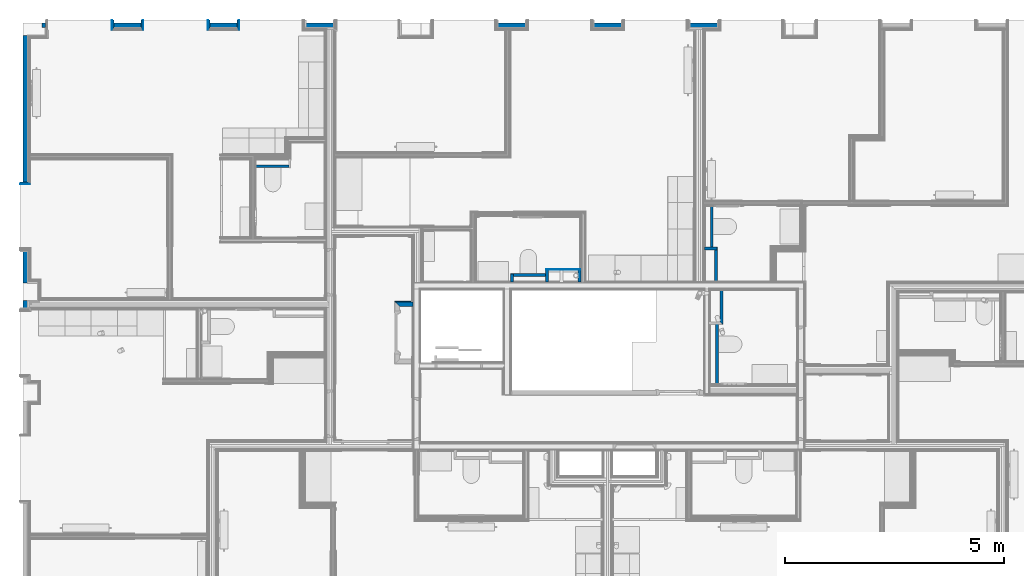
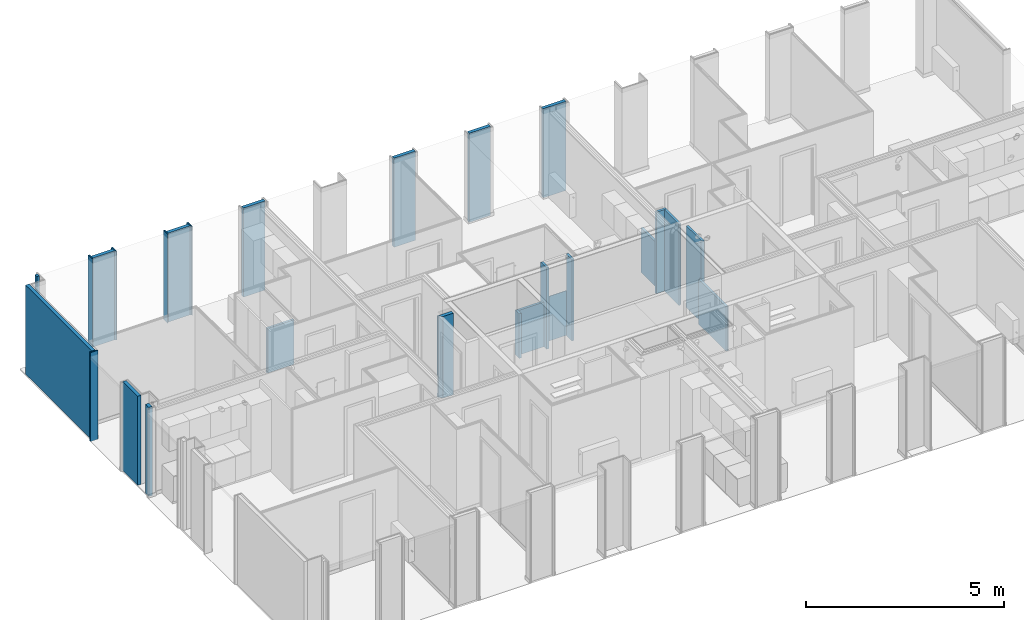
# One storey, part 3 of 85: 32 walls.
"""IFC2X3 building model written with IfcOpenShell, lengths in metres."""

from ifc_helpers import new_model, entity, si_unit, converted_unit, derived_unit, money_unit, direction, frame, frame_2d, origin_with_axes, place, context, subcontext, project, spatial, polyline, rectangle, outline, extrude, clip, bounded_halfspace, material, layer, layer_set, layer_usage, type_object, element, save


model = new_model("IFC2X3")

# Units and contexts
model_context = context("Model", 3, precision=1e-05, world=origin_with_axes(), true_north=direction((0.0, 1.0)))
body_context = subcontext(model_context, "Body", "Model", "MODEL_VIEW", scale=1.0)
ifc_project = project(units=[si_unit("LENGTHUNIT", "METRE"), si_unit("AREAUNIT", "SQUARE_METRE"), si_unit("VOLUMEUNIT", "CUBIC_METRE"), si_unit("ABSORBEDDOSEUNIT", "GRAY"), si_unit("AMOUNTOFSUBSTANCEUNIT", "MOLE"), si_unit("DOSEEQUIVALENTUNIT", "SIEVERT"), si_unit("ELECTRICCAPACITANCEUNIT", "FARAD"), si_unit("ELECTRICCHARGEUNIT", "COULOMB"), si_unit("ELECTRICCONDUCTANCEUNIT", "SIEMENS"), si_unit("ELECTRICCURRENTUNIT", "AMPERE"), si_unit("ELECTRICRESISTANCEUNIT", "OHM"), si_unit("ELECTRICVOLTAGEUNIT", "VOLT"), si_unit("ENERGYUNIT", "JOULE"), si_unit("FORCEUNIT", "NEWTON"), si_unit("FREQUENCYUNIT", "HERTZ"), si_unit("ILLUMINANCEUNIT", "LUX"), si_unit("INDUCTANCEUNIT", "HENRY"), si_unit("LUMINOUSFLUXUNIT", "LUMEN"), si_unit("LUMINOUSINTENSITYUNIT", "CANDELA"), si_unit("MAGNETICFLUXDENSITYUNIT", "TESLA"), si_unit("MAGNETICFLUXUNIT", "WEBER"), si_unit("MASSUNIT", "GRAM"), converted_unit("PLANEANGLEUNIT", "degree", entity("IfcReal", 0.0174532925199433), si_unit("PLANEANGLEUNIT", "RADIAN"), dimensions=[0, 0, 0, 0, 0, 0, 0]), si_unit("POWERUNIT", "WATT"), si_unit("PRESSUREUNIT", "PASCAL"), si_unit("RADIOACTIVITYUNIT", "BECQUEREL"), si_unit("SOLIDANGLEUNIT", "STERADIAN"), si_unit("THERMODYNAMICTEMPERATUREUNIT", "KELVIN"), si_unit("TIMEUNIT", "SECOND"), derived_unit("ACCELERATIONUNIT", [(si_unit("LENGTHUNIT", "METRE"), 1), (si_unit("TIMEUNIT", "SECOND"), -2)]), derived_unit("ANGULARVELOCITYUNIT", [(converted_unit("PLANEANGLEUNIT", "degree", entity("IfcReal", 0.0174532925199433), si_unit("PLANEANGLEUNIT", "RADIAN"), dimensions=[0, 0, 0, 0, 0, 0, 0]), 1), (si_unit("TIMEUNIT", "SECOND"), -1)]), derived_unit("CURVATUREUNIT", [(converted_unit("PLANEANGLEUNIT", "degree", entity("IfcReal", 0.0174532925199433), si_unit("PLANEANGLEUNIT", "RADIAN"), dimensions=[0, 0, 0, 0, 0, 0, 0]), 1), (si_unit("LENGTHUNIT", "METRE"), -1)]), derived_unit("DYNAMICVISCOSITYUNIT", [(si_unit("PRESSUREUNIT", "PASCAL"), 1), (si_unit("TIMEUNIT", "SECOND"), 1)]), derived_unit("HEATFLUXDENSITYUNIT", [(si_unit("POWERUNIT", "WATT"), 1), (si_unit("LENGTHUNIT", "METRE"), -2)]), derived_unit("HEATINGVALUEUNIT", [(si_unit("ENERGYUNIT", "JOULE"), 1), (si_unit("MASSUNIT", "GRAM"), -1)]), derived_unit("INTEGERCOUNTRATEUNIT", [(si_unit("TIMEUNIT", "SECOND"), -1)]), derived_unit("IONCONCENTRATIONUNIT", [(si_unit("MASSUNIT", "GRAM"), 1), (si_unit("VOLUMEUNIT", "CUBIC_METRE"), -1)]), derived_unit("ISOTHERMALMOISTURECAPACITYUNIT", [(si_unit("VOLUMEUNIT", "CUBIC_METRE"), 1), (si_unit("MASSUNIT", "GRAM"), -1)]), derived_unit("KINEMATICVISCOSITYUNIT", [(si_unit("AREAUNIT", "SQUARE_METRE"), 1), (si_unit("TIMEUNIT", "SECOND"), -1)]), derived_unit("LINEARFORCEUNIT", [(si_unit("FORCEUNIT", "NEWTON"), 1), (si_unit("LENGTHUNIT", "METRE"), -1)]), derived_unit("LINEARMOMENTUNIT", [(si_unit("FORCEUNIT", "NEWTON"), 1), (si_unit("LENGTHUNIT", "METRE"), -1)]), derived_unit("LINEARSTIFFNESSUNIT", [(si_unit("FORCEUNIT", "NEWTON"), 1), (si_unit("LENGTHUNIT", "METRE"), -1)]), derived_unit("LINEARVELOCITYUNIT", [(si_unit("LENGTHUNIT", "METRE"), 1), (si_unit("TIMEUNIT", "SECOND"), -1)]), derived_unit("LUMINOUSINTENSITYDISTRIBUTIONUNIT", [(si_unit("LUMINOUSINTENSITYUNIT", "CANDELA"), 1), (si_unit("LUMINOUSFLUXUNIT", "LUMEN"), -1)]), derived_unit("MASSDENSITYUNIT", [(si_unit("MASSUNIT", "GRAM"), 1), (si_unit("VOLUMEUNIT", "CUBIC_METRE"), -1)]), derived_unit("MASSFLOWRATEUNIT", [(si_unit("MASSUNIT", "GRAM"), 1), (si_unit("TIMEUNIT", "SECOND"), -1)]), derived_unit("MASSPERLENGTHUNIT", [(si_unit("MASSUNIT", "GRAM"), 1), (si_unit("LENGTHUNIT", "METRE"), -1)]), derived_unit("MODULUSOFELASTICITYUNIT", [(si_unit("FORCEUNIT", "NEWTON"), 1), (si_unit("AREAUNIT", "SQUARE_METRE"), -1)]), derived_unit("MODULUSOFLINEARSUBGRADEREACTIONUNIT", [(si_unit("FORCEUNIT", "NEWTON"), 1), (si_unit("LENGTHUNIT", "METRE"), -2)]), derived_unit("MODULUSOFROTATIONALSUBGRADEREACTIONUNIT", [(si_unit("FORCEUNIT", "NEWTON"), 1), (si_unit("LENGTHUNIT", "METRE"), 1)]), derived_unit("MODULUSOFSUBGRADEREACTIONUNIT", [(si_unit("FORCEUNIT", "NEWTON"), 1), (si_unit("VOLUMEUNIT", "CUBIC_METRE"), -1)]), derived_unit("MOISTUREDIFFUSIVITYUNIT", [(si_unit("VOLUMEUNIT", "CUBIC_METRE"), 1), (si_unit("TIMEUNIT", "SECOND"), -1)]), derived_unit("MOLECULARWEIGHTUNIT", [(si_unit("MASSUNIT", "GRAM"), 1), (si_unit("AMOUNTOFSUBSTANCEUNIT", "MOLE"), -1)]), derived_unit("PLANARFORCEUNIT", [(si_unit("FORCEUNIT", "NEWTON"), 1), (si_unit("LENGTHUNIT", "METRE"), -2)]), derived_unit("ROTATIONALFREQUENCYUNIT", [(si_unit("TIMEUNIT", "SECOND"), -1)]), derived_unit("ROTATIONALMASSUNIT", [(si_unit("MASSUNIT", "GRAM"), 1), (si_unit("LENGTHUNIT", "METRE"), 2)]), derived_unit("ROTATIONALSTIFFNESSUNIT", [(si_unit("FORCEUNIT", "NEWTON"), 1), (si_unit("LENGTHUNIT", "METRE"), 1), (converted_unit("PLANEANGLEUNIT", "degree", entity("IfcReal", 0.0174532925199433), si_unit("PLANEANGLEUNIT", "RADIAN"), dimensions=[0, 0, 0, 0, 0, 0, 0]), -1)]), derived_unit("SECTIONAREAINTEGRALUNIT", [(si_unit("LENGTHUNIT", "METRE"), 5)]), derived_unit("SECTIONMODULUSUNIT", [(si_unit("LENGTHUNIT", "METRE"), 3)]), derived_unit("SHEARMODULUSUNIT", [(si_unit("FORCEUNIT", "NEWTON"), 1), (si_unit("AREAUNIT", "SQUARE_METRE"), -1)]), derived_unit("SOUNDPOWERUNIT", [(si_unit("ENERGYUNIT", "JOULE"), 1), (si_unit("TIMEUNIT", "SECOND"), -1)]), derived_unit("SPECIFICHEATCAPACITYUNIT", [(si_unit("FORCEUNIT", "NEWTON"), 1), (si_unit("MASSUNIT", "GRAM"), -1), (si_unit("THERMODYNAMICTEMPERATUREUNIT", "KELVIN"), -1)]), derived_unit("TEMPERATUREGRADIENTUNIT", [(si_unit("THERMODYNAMICTEMPERATUREUNIT", "KELVIN"), 1), (si_unit("LENGTHUNIT", "METRE"), -1)]), derived_unit("THERMALADMITTANCEUNIT", [(si_unit("POWERUNIT", "WATT"), 1), (si_unit("AREAUNIT", "SQUARE_METRE"), -1), (si_unit("THERMODYNAMICTEMPERATUREUNIT", "KELVIN"), -1)]), derived_unit("THERMALCONDUCTANCEUNIT", [(si_unit("POWERUNIT", "WATT"), 1), (si_unit("LENGTHUNIT", "METRE"), -1), (si_unit("THERMODYNAMICTEMPERATUREUNIT", "KELVIN"), -1)]), derived_unit("THERMALEXPANSIONCOEFFICIENTUNIT", [(si_unit("THERMODYNAMICTEMPERATUREUNIT", "KELVIN"), -1)]), derived_unit("THERMALRESISTANCEUNIT", [(si_unit("AREAUNIT", "SQUARE_METRE"), 1), (si_unit("POWERUNIT", "WATT"), -1)]), derived_unit("THERMALTRANSMITTANCEUNIT", [(si_unit("POWERUNIT", "WATT"), 1), (si_unit("AREAUNIT", "SQUARE_METRE"), -1), (si_unit("THERMODYNAMICTEMPERATUREUNIT", "KELVIN"), -1)]), derived_unit("TORQUEUNIT", [(si_unit("FORCEUNIT", "NEWTON"), 1), (si_unit("LENGTHUNIT", "METRE"), 1)]), derived_unit("VAPORPERMEABILITYUNIT", [(si_unit("MASSUNIT", "GRAM"), 1), (si_unit("TIMEUNIT", "SECOND"), -1)]), derived_unit("VOLUMETRICFLOWRATEUNIT", [(si_unit("VOLUMEUNIT", "CUBIC_METRE"), 1), (si_unit("TIMEUNIT", "SECOND"), -1)]), derived_unit("WARPINGCONSTANTUNIT", [(si_unit("LENGTHUNIT", "METRE"), 6)]), derived_unit("WARPINGMOMENTUNIT", [(si_unit("FORCEUNIT", "NEWTON"), 1), (si_unit("LENGTHUNIT", "METRE"), 2)]), money_unit("GBP")], contexts=[model_context])

# Site, building, storey
site_placement = place(None, origin_with_axes())
site = spatial("IfcSite", under=ifc_project, at=site_placement, Name="Site", CompositionType="ELEMENT")
building_placement = place(site_placement, origin_with_axes())
building = spatial("IfcBuilding", under=site, at=building_placement, Name="Building01", CompositionType="ELEMENT")
storey_placement = place(building_placement, frame((0.0, 0.0, 12.13), z_axis=(0.0, 0.0, 1.0), x_axis=(1.0, 0.0, 0.0)))
storey = spatial("IfcBuildingStorey", under=building, at=storey_placement, Name="3F", CompositionType="ELEMENT", Elevation=12.13)

# Walls
ifc_material_1 = material(Name="A_BSUK_WallsExternal_Block")
ifc_layer_1 = layer(ifc_material_1, 0.1, ventilated=False)
ifc_layer_set_1 = layer_set([ifc_layer_1])
ifc_layer_usage_1 = layer_usage(ifc_layer_set_1, "AXIS2", "POSITIVE", 0.0)
wall_type_1 = type_object("IfcWallType", Name="A-Walls-ExternalBlock", PredefinedType="NOTDEFINED")
wall_1_placement = place(storey_placement, frame((0.6, 14.63, 0.0), z_axis=(0.0, 0.0, 1.0), x_axis=(1.0, 0.0, 0.0)))
element("IfcWallStandardCase", 1, at=wall_1_placement, inside=storey, type_object=wall_type_1, material=ifc_layer_usage_1, Name="A-Walls-ExternalBlock", ObjectType="A-Walls-ExternalBlock", context=body_context, shape_type="SweptSolid", body=[
    extrude(rectangle(XDim=0.077, YDim=0.1, at=frame_2d((0.0385, 0.05), x_axis=(1.0, 0.0))), origin_with_axes(), (0.0, 0.0, 1.0), 2.74),
])
wall_2_placement = place(storey_placement, frame((0.17, 14.45, 0.0), z_axis=(0.0, 0.0, 1.0), x_axis=(0.0, -1.0, 0.0)))
element("IfcWallStandardCase", 2, at=wall_2_placement, inside=storey, type_object=wall_type_1, material=ifc_layer_usage_1, Name="A-Walls-ExternalBlock", ObjectType="A-Walls-ExternalBlock", context=body_context, shape_type="SweptSolid", body=[
    extrude(rectangle(XDim=3.347, YDim=0.1, at=frame_2d((1.6735, 0.05), x_axis=(1.0, 0.0))), origin_with_axes(), (0.0, 0.0, 1.0), 2.74),
])
wall_3_placement = place(storey_placement, frame((0.17, 9.55018, 0.0), z_axis=(0.0, 0.0, 1.0), x_axis=(0.0, -1.0, 0.0)))
element("IfcWallStandardCase", 3, at=wall_3_placement, inside=storey, type_object=wall_type_1, material=ifc_layer_usage_1, Name="A-Walls-ExternalBlock", ObjectType="A-Walls-ExternalBlock", context=body_context, shape_type="SweptSolid", body=[
    extrude(rectangle(XDim=0.1, YDim=0.75018, at=frame_2d((0.37509, 0.05), x_axis=(0.0, -1.0))), origin_with_axes(), (0.0, 0.0, 1.0), 2.74),
])
wall_4_placement = place(storey_placement, frame((0.17, 8.4, 0.0), z_axis=(0.0, 0.0, 1.0), x_axis=(0.0, -1.0, 0.0)))
element("IfcWallStandardCase", 4, at=wall_4_placement, inside=storey, type_object=wall_type_1, material=ifc_layer_usage_1, Name="A-Walls-ExternalBlock", ObjectType="A-Walls-ExternalBlock", context=body_context, shape_type="SweptSolid", body=[
    extrude(rectangle(XDim=0.167, YDim=0.1, at=frame_2d((0.0835, 0.05), x_axis=(-1.0, 0.0))), origin_with_axes(), (0.0, 0.0, 1.0), 2.74),
])
for number, where, z_axis, x_axis, name in (
    (5, (2.243, 14.63, 0.0), (0.0, 0.0, 1.0), (1.0, 0.0, 0.0), "A-Walls-ExternalBlock"),
    (6, (4.433, 14.63, 0.0), (0.0, 0.0, 1.0), (1.0, 0.0, 0.0), "A-Walls-ExternalBlock"),
):
    element("IfcWallStandardCase", number, at=place(storey_placement, frame(where, z_axis=z_axis, x_axis=x_axis)), inside=storey, type_object=wall_type_1, material=ifc_layer_usage_1, Name=name, ObjectType="A-Walls-ExternalBlock", context=body_context, shape_type="SweptSolid", body=[
        extrude(rectangle(XDim=0.624, YDim=0.1, at=frame_2d((0.312, 0.05), x_axis=(1.0, 0.0))), origin_with_axes(), (0.0, 0.0, 1.0), 2.74),
    ])
wall_5_placement = place(storey_placement, frame((6.622876, 14.63, 0.0), z_axis=(0.0, 0.0, 1.0), x_axis=(1.0, 0.0, 0.0)))
element("IfcWallStandardCase", 7, at=wall_5_placement, inside=storey, type_object=wall_type_1, material=ifc_layer_usage_1, Name="A-Walls-ExternalBlock", ObjectType="A-Walls-ExternalBlock", context=body_context, shape_type="SweptSolid", body=[
    extrude(rectangle(XDim=0.624124, YDim=0.1, at=frame_2d((0.312062, 0.05), x_axis=(-1.0, 0.0))), origin_with_axes(), (0.0, 0.0, 1.0), 2.74),
])
for number, where, z_axis, x_axis, name in (
    (8, (11.003, 14.63, 0.0), (0.0, 0.0, 1.0), (1.0, 0.0, 0.0), "A-Walls-ExternalBlock"),
    (9, (13.193, 14.63, 0.0), (0.0, 0.0, 1.0), (1.0, 0.0, 0.0), "A-Walls-ExternalBlock"),
):
    element("IfcWallStandardCase", number, at=place(storey_placement, frame(where, z_axis=z_axis, x_axis=x_axis)), inside=storey, type_object=wall_type_1, material=ifc_layer_usage_1, Name=name, ObjectType="A-Walls-ExternalBlock", context=body_context, shape_type="SweptSolid", body=[
        extrude(rectangle(XDim=0.624, YDim=0.1, at=frame_2d((0.312, 0.05), x_axis=(1.0, 0.0))), origin_with_axes(), (0.0, 0.0, 1.0), 2.74),
    ])
wall_6_placement = place(storey_placement, frame((15.347, 14.63, 0.0), z_axis=(0.0, 0.0, 1.0), x_axis=(1.0, 0.0, 0.0)))
element("IfcWallStandardCase", 10, at=wall_6_placement, inside=storey, type_object=wall_type_1, material=ifc_layer_usage_1, Name="A-Walls-ExternalBlock", ObjectType="A-Walls-ExternalBlock", context=body_context, shape_type="SweptSolid", body=[
    extrude(rectangle(XDim=0.1, YDim=0.66, at=frame_2d((0.33, 0.05), x_axis=(0.0, -1.0))), origin_with_axes(), (0.0, 0.0, 1.0), 2.74),
])
ifc_material_2 = material(Name="A_BSUK_OpeningsClearance")
ifc_layer_2 = layer(ifc_material_2, 0.05, ventilated=False)
ifc_material_3 = material(Name="A_BSUK_Walls_Timber")
ifc_layer_3 = layer(ifc_material_3, 0.015, ventilated=False)
ifc_layer_set_2 = layer_set([ifc_layer_2, ifc_layer_3])
ifc_layer_usage_2 = layer_usage(ifc_layer_set_2, "AXIS2", "POSITIVE", 0.0)
wall_type_2 = type_object("IfcWallType", Name="SHE_A-Walls_Type05c_PreWallShell_65mm", PredefinedType="NOTDEFINED")
wall_7_placement = place(storey_placement, frame((12.153871, 8.82, 0.0), z_axis=(0.0, 0.0, 1.0), x_axis=(0.0, 1.0, 0.0)))
element("IfcWallStandardCase", 11, at=wall_7_placement, inside=storey, type_object=wall_type_2, material=ifc_layer_usage_2, Name="5C", ObjectType="SHE_A-Walls_Type05c_PreWallShell_65mm", context=body_context, shape_type="SweptSolid", body=[
    extrude(outline(polyline([(0.285, 0.05), (0.3, 0.05), (0.3, 0.065), (0.0, 0.065), (0.0, 0.0), (0.285, 0.0), (0.285, 0.05)])), origin_with_axes(), (0.0, 0.0, 1.0), 2.51),
])
ifc_layer_set_3 = layer_set([ifc_layer_3, ifc_layer_2])
ifc_layer_usage_3 = layer_usage(ifc_layer_set_3, "AXIS2", "POSITIVE", 0.0)
wall_8_placement = place(storey_placement, frame((16.065, 7.915, 0.0), z_axis=(0.0, 0.0, 1.0), x_axis=(0.0, 1.0, 0.0)))
element("IfcWallStandardCase", 12, at=wall_8_placement, inside=storey, type_object=wall_type_2, material=ifc_layer_usage_3, Name="5C", ObjectType="SHE_A-Walls_Type05c_PreWallShell_65mm", context=body_context, shape_type="SweptSolid", body=[
    extrude(outline(polyline([(0.72, -0.05), (0.75, -0.05), (0.75, 0.0), (0.0, 0.0), (-0.065, -0.065), (0.72, -0.065), (0.72, -0.05)])), origin_with_axes(), (0.0, 0.0, 1.0), 2.51),
])
wall_9_placement = place(storey_placement, frame((15.965, 6.59, 0.0), z_axis=(0.0, 0.0, 1.0), x_axis=(0.0, 1.0, 0.0)))
element("IfcWallStandardCase", 13, at=wall_9_placement, inside=storey, type_object=wall_type_2, material=ifc_layer_usage_3, Name="5C", ObjectType="SHE_A-Walls_Type05c_PreWallShell_65mm", context=body_context, shape_type="SweptSolid", body=[
    extrude(outline(polyline([(1.275, -0.05), (1.275, 0.0), (-0.103, 0.0), (-0.103, -0.05), (-0.115, -0.05), (-0.115, -0.065), (1.325, -0.065), (1.325, -0.05), (1.275, -0.05)])), origin_with_axes(), (0.0, 0.0, 1.0), 1.375),
])
wall_10_placement = place(storey_placement, frame((12.828585, 8.82, 0.0), z_axis=(0.0, 0.0, 1.0), x_axis=(0.0, 1.0, 0.0)))
element("IfcWallStandardCase", 14, at=wall_10_placement, inside=storey, type_object=wall_type_2, material=ifc_layer_usage_3, Name="5C", ObjectType="SHE_A-Walls_Type05c_PreWallShell_65mm", context=body_context, shape_type="SweptSolid", body=[
    extrude(outline(polyline([(0.285, -0.05), (0.285, 0.0), (0.0, 0.0), (0.0, -0.065), (0.3, -0.065), (0.3, -0.05), (0.285, -0.05)])), origin_with_axes(), (0.0, 0.0, 1.0), 2.51),
])
wall_11_placement = place(storey_placement, frame((15.943132, 9.555, 0.0), z_axis=(0.0, 0.0, 1.0), x_axis=(0.0, -1.0, 0.0)))
element("IfcWallStandardCase", 15, at=wall_11_placement, inside=storey, type_object=wall_type_2, material=ifc_layer_usage_2, Name="5C", ObjectType="SHE_A-Walls_Type05c_PreWallShell_65mm", context=body_context, shape_type="SweptSolid", body=[
    extrude(outline(polyline([(0.72, 0.05), (0.72, 0.065), (-0.065, 0.065), (-0.065, 0.05), (0.0, 0.05), (0.0, 0.0), (0.735, 0.0), (0.735, 0.05), (0.72, 0.05)])), origin_with_axes(), (0.0, 0.0, 1.0), 2.51),
])
wall_12_placement = place(storey_placement, frame((15.708132, 9.555, 0.0), z_axis=(0.0, 0.0, 1.0), x_axis=(1.0, 0.0, 0.0)))
element("IfcWallStandardCase", 16, at=wall_12_placement, inside=storey, type_object=wall_type_2, material=ifc_layer_usage_2, Name="5C", ObjectType="SHE_A-Walls_Type05c_PreWallShell_65mm", context=body_context, shape_type="SweptSolid", body=[
    extrude(rectangle(XDim=0.285, YDim=0.065, at=frame_2d((0.1425, 0.0325), x_axis=(-1.0, 0.0))), origin_with_axes(), (0.0, 0.0, 1.0), 2.51),
])
wall_13_placement = place(storey_placement, frame((15.843132, 9.605, 0.0), z_axis=(0.0, 0.0, 1.0), x_axis=(0.0, 1.0, 0.0)))
element("IfcWallStandardCase", 17, at=wall_13_placement, inside=storey, type_object=wall_type_2, material=ifc_layer_usage_3, Name="5C", ObjectType="SHE_A-Walls_Type05c_PreWallShell_65mm", context=body_context, shape_type="SweptSolid", body=[
    extrude(outline(polyline([(0.95, -0.05), (0.965, -0.05), (0.965, 0.0), (0.0, 0.0), (0.0, -0.05), (-0.05, -0.05), (-0.05, -0.065), (0.95, -0.065), (0.95, -0.05)])), origin_with_axes(), (0.0, 0.0, 1.0), 1.375),
])
wall_14_placement = place(storey_placement, frame((5.464669, 11.495672, 0.0), z_axis=(0.0, 0.0, 1.0), x_axis=(1.0, 0.0, 0.0)))
element("IfcWallStandardCase", 18, at=wall_14_placement, inside=storey, type_object=wall_type_2, material=ifc_layer_usage_3, Name="5C", ObjectType="SHE_A-Walls_Type05c_PreWallShell_65mm", context=body_context, shape_type="SweptSolid", body=[
    extrude(outline(polyline([(0.775, 0.0), (0.0, 0.0), (0.0, -0.05), (0.015, -0.05), (0.015, -0.065), (0.775, -0.065), (0.775, 0.0)])), origin_with_axes(), (0.0, 0.0, 1.0), 1.375),
])
wall_15_placement = place(storey_placement, frame((12.103871, 8.954996, 0.0), z_axis=(0.0, 0.0, 1.0), x_axis=(-1.0, 0.0, 0.0)))
element("IfcWallStandardCase", 19, at=wall_15_placement, inside=storey, type_object=wall_type_2, material=ifc_layer_usage_3, Name="5C", ObjectType="SHE_A-Walls_Type05c_PreWallShell_65mm", context=body_context, shape_type="SweptSolid", body=[
    extrude(outline(polyline([(0.749998, -0.05), (0.749998, 0.0), (0.0, 0.0), (0.0, -0.05), (0.015, -0.05), (0.015, -0.065), (0.799998, -0.065), (0.799998, -0.05), (0.749998, -0.05)])), origin_with_axes(), (0.0, 0.0, 1.0), 1.375),
])
wall_16_placement = place(storey_placement, frame((11.353873, 8.82, 0.0), z_axis=(0.0, 0.0, 1.0), x_axis=(0.0, 1.0, 0.0)))
element("IfcWallStandardCase", 20, at=wall_16_placement, inside=storey, type_object=wall_type_2, material=ifc_layer_usage_2, Name="5C", ObjectType="SHE_A-Walls_Type05c_PreWallShell_65mm", context=body_context, shape_type="SweptSolid", body=[
    extrude(outline(polyline([(0.184996, 0.05), (0.199996, 0.05), (0.199996, 0.065), (0.0, 0.065), (0.0, 0.0), (0.184996, 0.0), (0.184996, 0.05)])), origin_with_axes(), (0.0, 0.0, 1.0), 1.375),
])
ifc_material_4 = material(Name="A_BSUK_WallInternal_Finishes_Plasterboard")
ifc_layer_4 = layer(ifc_material_4, 0.013, ventilated=False)
ifc_layer_set_4 = layer_set([ifc_layer_4])
ifc_layer_usage_4 = layer_usage(ifc_layer_set_4, "AXIS2", "POSITIVE", 0.0)
wall_type_3 = type_object("IfcWallType", Name="default", PredefinedType="NOTDEFINED")
wall_17_placement = place(storey_placement, frame((0.305, 11.068, 0.0), z_axis=(0.0, 0.0, 1.0), x_axis=(-1.0, 0.0, 0.0)))
element("IfcWallStandardCase", 21, at=wall_17_placement, inside=storey, type_object=wall_type_3, material=ifc_layer_usage_4, Name="default", ObjectType="default", context=body_context, shape_type="SweptSolid", body=[
    extrude(outline(polyline([(-0.013, 0.013), (0.0, 0.0), (0.205, 0.0), (0.205, 0.013), (-0.013, 0.013)])), origin_with_axes(), (0.0, 0.0, 1.0), 2.74),
])
ifc_material_5 = material(Name="A_BSUK_Insulation")
ifc_layer_5 = layer(ifc_material_5, 0.036, ventilated=False)
ifc_layer_set_5 = layer_set([ifc_layer_5])
ifc_layer_usage_5 = layer_usage(ifc_layer_set_5, "AXIS2", "POSITIVE", 0.0)
wall_18_placement = place(storey_placement, frame((0.27, 11.103, 0.0), z_axis=(0.0, 0.0, 1.0), x_axis=(-1.0, 0.0, 0.0)))
element("IfcWallStandardCase", 22, at=wall_18_placement, inside=storey, type_object=wall_type_3, material=ifc_layer_usage_5, Name="default", ObjectType="default", context=body_context, shape_type="SweptSolid", body=[
    extrude(outline(polyline([(-0.036, 0.036), (0.0, 0.0), (0.17, 0.0), (0.17, 0.036), (-0.036, 0.036)])), origin_with_axes(), (0.0, 0.0, 1.0), 2.74),
])
wall_19_placement = place(storey_placement, frame((2.902, 14.8, 0.0), z_axis=(0.0, 0.0, 1.0), x_axis=(0.0, -1.0, 0.0)))
element("IfcWallStandardCase", 23, at=wall_19_placement, inside=storey, type_object=wall_type_3, material=ifc_layer_usage_4, Name="default", ObjectType="default", context=body_context, shape_type="SweptSolid", body=[
    extrude(outline(polyline([(0.218, 0.013), (0.0, 0.013), (0.0, 0.0), (0.205, 0.0), (0.218, 0.013)])), origin_with_axes(), (0.0, 0.0, 1.0), 2.74),
])
wall_20_placement = place(storey_placement, frame((2.867, 14.8, 0.0), z_axis=(0.0, 0.0, 1.0), x_axis=(0.0, -1.0, 0.0)))
element("IfcWallStandardCase", 24, at=wall_20_placement, inside=storey, type_object=wall_type_3, material=ifc_layer_usage_5, Name="default", ObjectType="default", context=body_context, shape_type="SweptSolid", body=[
    extrude(outline(polyline([(0.206, 0.036), (0.0, 0.036), (0.0, 0.0), (0.17, 0.0), (0.206, 0.036)])), origin_with_axes(), (0.0, 0.0, 1.0), 2.74),
])
wall_21_placement = place(storey_placement, frame((2.208, 14.595, 0.0), z_axis=(0.0, 0.0, 1.0), x_axis=(0.0, 1.0, 0.0)))
element("IfcWallStandardCase", 25, at=wall_21_placement, inside=storey, type_object=wall_type_3, material=ifc_layer_usage_4, Name="default", ObjectType="default", context=body_context, shape_type="SweptSolid", body=[
    extrude(outline(polyline([(-0.013, 0.013), (0.0, 0.0), (0.205, 0.0), (0.205, 0.013), (-0.013, 0.013)])), origin_with_axes(), (0.0, 0.0, 1.0), 2.74),
])
wall_22_placement = place(storey_placement, frame((2.243, 14.63, 0.0), z_axis=(0.0, 0.0, 1.0), x_axis=(0.0, 1.0, 0.0)))
element("IfcWallStandardCase", 26, at=wall_22_placement, inside=storey, type_object=wall_type_3, material=ifc_layer_usage_5, Name="default", ObjectType="default", context=body_context, shape_type="SweptSolid", body=[
    extrude(outline(polyline([(-0.036, 0.036), (0.0, 0.0), (0.17, 0.0), (0.17, 0.036), (-0.036, 0.036)])), origin_with_axes(), (0.0, 0.0, 1.0), 2.74),
])
wall_23_placement = place(storey_placement, frame((5.092, 14.8, 0.0), z_axis=(0.0, 0.0, 1.0), x_axis=(0.0, -1.0, 0.0)))
element("IfcWallStandardCase", 27, at=wall_23_placement, inside=storey, type_object=wall_type_3, material=ifc_layer_usage_4, Name="default", ObjectType="default", context=body_context, shape_type="SweptSolid", body=[
    extrude(outline(polyline([(0.218, 0.013), (0.0, 0.013), (0.0, 0.0), (0.205, 0.0), (0.218, 0.013)])), origin_with_axes(), (0.0, 0.0, 1.0), 2.74),
])
wall_24_placement = place(storey_placement, frame((5.057, 14.8, 0.0), z_axis=(0.0, 0.0, 1.0), x_axis=(0.0, -1.0, 0.0)))
element("IfcWallStandardCase", 28, at=wall_24_placement, inside=storey, type_object=wall_type_3, material=ifc_layer_usage_5, Name="default", ObjectType="default", context=body_context, shape_type="SweptSolid", body=[
    extrude(outline(polyline([(0.206, 0.036), (0.0, 0.036), (0.0, 0.0), (0.17, 0.0), (0.206, 0.036)])), origin_with_axes(), (0.0, 0.0, 1.0), 2.74),
])
wall_25_placement = place(storey_placement, frame((4.398, 14.595, 0.0), z_axis=(0.0, 0.0, 1.0), x_axis=(0.0, 1.0, 0.0)))
element("IfcWallStandardCase", 29, at=wall_25_placement, inside=storey, type_object=wall_type_3, material=ifc_layer_usage_4, Name="default", ObjectType="default", context=body_context, shape_type="SweptSolid", body=[
    extrude(outline(polyline([(-0.013, 0.013), (0.0, 0.0), (0.205, 0.0), (0.205, 0.013), (-0.013, 0.013)])), origin_with_axes(), (0.0, 0.0, 1.0), 2.74),
])
wall_26_placement = place(storey_placement, frame((4.433, 14.63, 0.0), z_axis=(0.0, 0.0, 1.0), x_axis=(0.0, 1.0, 0.0)))
element("IfcWallStandardCase", 30, at=wall_26_placement, inside=storey, type_object=wall_type_3, material=ifc_layer_usage_5, Name="default", ObjectType="default", context=body_context, shape_type="SweptSolid", body=[
    extrude(outline(polyline([(-0.036, 0.036), (0.0, 0.0), (0.17, 0.0), (0.17, 0.036), (-0.036, 0.036)])), origin_with_axes(), (0.0, 0.0, 1.0), 2.74),
])
ifc_layer_set_6 = layer_set([ifc_layer_3])
ifc_layer_usage_6 = layer_usage(ifc_layer_set_6, "AXIS2", "POSITIVE", 0.0)
wall_27_placement = place(storey_placement, frame((12.103871, 9.105, 0.0), z_axis=(0.0, 0.0, 1.0), x_axis=(1.0, 0.0, 0.0)))
element("IfcWallStandardCase", 31, at=wall_27_placement, inside=storey, type_object=wall_type_3, material=ifc_layer_usage_6, Name="default", ObjectType="default", context=body_context, shape_type="SweptSolid", body=[
    extrude(rectangle(XDim=0.774714, YDim=0.015, at=frame_2d((0.387357, 0.0075), x_axis=(-1.0, 0.0))), origin_with_axes(), (0.0, 0.0, 1.0), 1.375),
])
ifc_layer_6 = layer(ifc_material_4, 0.015, ventilated=False)
ifc_material_6 = material(Name="Air Cavity")
ifc_layer_7 = layer(ifc_material_6, 0.072, ventilated=False)
ifc_layer_set_7 = layer_set([ifc_layer_6, ifc_layer_7, ifc_layer_6, ifc_layer_3])
ifc_layer_usage_7 = layer_usage(ifc_layer_set_7, "AXIS2", "POSITIVE", 0.0)
wall_type_4 = type_object("IfcWallType", Name="SHE_A-Walls_Type04c_RiserWall_102mm_tall", PredefinedType="NOTDEFINED")
wall_28_placement = place(storey_placement, frame((8.658, 8.372405, 0.015), z_axis=(0.0, 0.0, 1.0), x_axis=(1.0, 0.0, 0.0)))
element("IfcWallStandardCase", 32, at=wall_28_placement, inside=storey, type_object=wall_type_4, material=ifc_layer_usage_7, Name="4C", ObjectType="SHE_A-Walls_Type04c_RiserWall_102mm_tall", context=body_context, shape_type="Clipping", body=[
    clip(clip(extrude(outline(polyline([(0.402, 0.015), (-0.015, 0.015), (0.0, 0.0), (0.0, -0.015), (0.015, -0.015), (0.102, -0.102), (0.402, -0.102), (0.402, 0.015)])), frame((0.0, 0.0, -0.015), z_axis=(0.0, 0.0, 1.0), x_axis=(1.0, 0.0, 0.0)), (0.0, 0.0, 1.0), 2.51), bounded_halfspace(frame((0.0, 0.0, 0.1), z_axis=(0.0, 0.0, 1.0), x_axis=(1.0, 0.0, 0.0)), False, frame((0.0, 0.0, 0.1), z_axis=(0.0, 0.0, 1.0), x_axis=(1.0, 0.0, 0.0)), polyline([(0.402, 0.015), (-0.015, 0.015), (0.0, 0.0), (0.402, 0.0), (0.402, 0.015)]))), bounded_halfspace(frame((0.0, 0.0, 0.0), z_axis=(0.0, 0.0, -1.0), x_axis=(-1.0, 0.0, 0.0)), False, frame((0.0, 0.0, 0.0), z_axis=(0.0, 0.0, -1.0), x_axis=(-1.0, 0.0, 0.0)), polyline([(-0.402, 0.0), (0.0, 0.0), (0.015, 0.015), (-0.402, 0.015), (-0.402, 0.0)]))),
])

save(model, "model.ifc")
